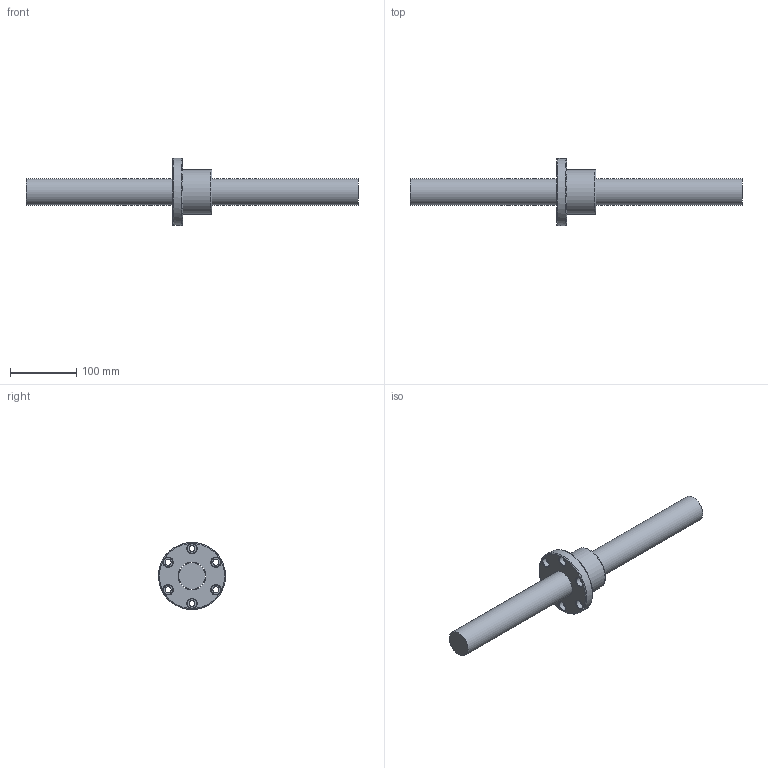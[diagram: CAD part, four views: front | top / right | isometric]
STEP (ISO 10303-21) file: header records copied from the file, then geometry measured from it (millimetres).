
FILE_DESCRIPTION (( 'STEP AP203' ), '1' );
FILE_NAME ('SFV04005N-4.8.step', '2024-05-20T03:39:33', ( '' ), ( '' ), 'SwSTEP 2.0', 'SolidWorks 2022', '' );
FILE_SCHEMA (( 'CONFIG_CONTROL_DESIGN' ));
Length unit declared in the file: millimetre
Products named in the file (1): SFV04005N-4.8
Bounding box: 500 x 101 x 101 mm (x, y, z)
Volume: 809984 mm3; surface area: 102746.6 mm2
Topology: 2 solids, 2 shells, 56 faces, 144 edges, 92 vertices
Faces by surface type: cylinder 24, cone 13, plane 12, bspline 4, torus 3
Full cylindrical faces by diameter (mm): 4 x1, 7 x5, 9 x6, 14 x6, 40 x1, 42.1 x1, 67 x1, 101 x1
Entity records: 3007 total; most frequent: CARTESIAN_POINT 1954, DIRECTION 206, ORIENTED_EDGE 150, AXIS2_PLACEMENT_3D 101, EDGE_LOOP 101, EDGE_CURVE 75, FACE_OUTER_BOUND 72, VERTEX_POINT 64
